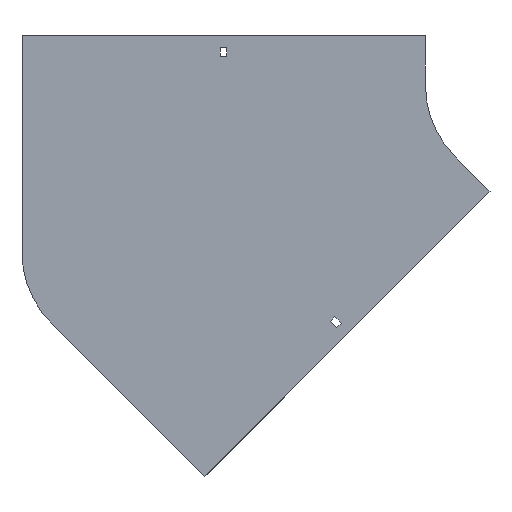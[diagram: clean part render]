
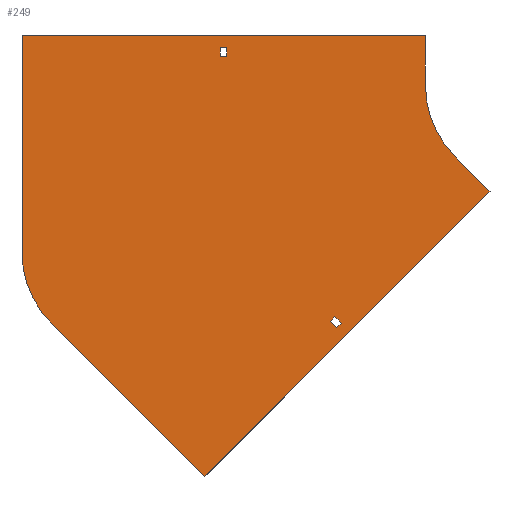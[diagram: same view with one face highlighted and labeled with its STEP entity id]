
A CAD part, front view. The second image highlights one B-rep face of the part: STEP entity #249.
In plain terms, the highlighted planar face has unit normal (0, -1, 0).
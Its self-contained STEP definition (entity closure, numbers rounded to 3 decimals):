
#23 = CARTESIAN_POINT ( 'NONE',  ( -504., 0., -167.342 ) ) ;
#47 = ORIENTED_EDGE ( 'NONE', *, *, #1435, .F. ) ;
#52 = CARTESIAN_POINT ( 'NONE',  ( -298.75, 0., 38. ) ) ;
#54 = ORIENTED_EDGE ( 'NONE', *, *, #1942, .F. ) ;
#55 = LINE ( 'NONE', #652, #490 ) ;
#66 = CARTESIAN_POINT ( 'NONE',  ( -190.742, 0., -231.754 ) ) ;
#97 = DIRECTION ( 'NONE',  ( 0., 1., 0. ) ) ;
#99 = CARTESIAN_POINT ( 'NONE',  ( -298.75, 0., 29. ) ) ;
#100 = CARTESIAN_POINT ( 'NONE',  ( -100., 0., 0. ) ) ;
#110 = DIRECTION ( 'NONE',  ( 0., -1., 0. ) ) ;
#145 = VERTEX_POINT ( 'NONE', #1742 ) ;
#153 = VECTOR ( 'NONE', #383, 1000. ) ;
#178 = CARTESIAN_POINT ( 'NONE',  ( -305.25, 0., 29. ) ) ;
#185 = VECTOR ( 'NONE', #1037, 1000. ) ;
#207 = VERTEX_POINT ( 'NONE', #1720 ) ;
#227 = DIRECTION ( 'NONE',  ( 1., 0., 0. ) ) ;
#230 = ORIENTED_EDGE ( 'NONE', *, *, #1071, .T. ) ;
#242 = EDGE_LOOP ( 'NONE', ( #1198, #1507, #666, #47, #1045, #264, #1923, #252 ) ) ;
#249 = ADVANCED_FACE ( 'NONE', ( #1609, #1631, #862 ), #1754, .T. ) ;
#252 = ORIENTED_EDGE ( 'NONE', *, *, #839, .F. ) ;
#261 = CARTESIAN_POINT ( 'NONE',  ( -404., 0., -167.342 ) ) ;
#264 = ORIENTED_EDGE ( 'NONE', *, *, #1595, .F. ) ;
#274 = EDGE_CURVE ( 'NONE', #681, #539, #413, .T. ) ;
#295 = CARTESIAN_POINT ( 'NONE',  ( -35.355, 0., -106.066 ) ) ;
#301 = AXIS2_PLACEMENT_3D ( 'NONE', #1174, #1646, #895 ) ;
#313 = VERTEX_POINT ( 'NONE', #100 ) ;
#337 = DIRECTION ( 'NONE',  ( 1., 0., 0. ) ) ;
#339 = LINE ( 'NONE', #99, #1289 ) ;
#347 = ORIENTED_EDGE ( 'NONE', *, *, #1590, .F. ) ;
#383 = DIRECTION ( 'NONE',  ( 0.707, 0., -0.707 ) ) ;
#413 = LINE ( 'NONE', #1309, #533 ) ;
#433 = ORIENTED_EDGE ( 'NONE', *, *, #1443, .T. ) ;
#447 = LINE ( 'NONE', #469, #1404 ) ;
#469 = CARTESIAN_POINT ( 'NONE',  ( -195.338, 0., -236.35 ) ) ;
#490 = VECTOR ( 'NONE', #227, 1000. ) ;
#497 = CARTESIAN_POINT ( 'NONE',  ( -321.026, 0., -391.737 ) ) ;
#507 = DIRECTION ( 'NONE',  ( -0.707, 0., -0.707 ) ) ;
#510 = LINE ( 'NONE', #983, #1857 ) ;
#511 = VERTEX_POINT ( 'NONE', #512 ) ;
#512 = CARTESIAN_POINT ( 'NONE',  ( -35.355, 0., -106.066 ) ) ;
#525 = LINE ( 'NONE', #1748, #153 ) ;
#533 = VECTOR ( 'NONE', #1179, 1000. ) ;
#539 = VERTEX_POINT ( 'NONE', #856 ) ;
#561 = EDGE_CURVE ( 'NONE', #697, #1759, #1150, .T. ) ;
#583 = CARTESIAN_POINT ( 'NONE',  ( -190.742, 0., -231.754 ) ) ;
#596 = VERTEX_POINT ( 'NONE', #23 ) ;
#598 = DIRECTION ( 'NONE',  ( 0., 0., -1. ) ) ;
#616 = ORIENTED_EDGE ( 'NONE', *, *, #1406, .F. ) ;
#629 = CARTESIAN_POINT ( 'NONE',  ( -504., 0., 50. ) ) ;
#652 = CARTESIAN_POINT ( 'NONE',  ( -305.25, 0., 38. ) ) ;
#659 = CARTESIAN_POINT ( 'NONE',  ( -195.338, 0., -236.35 ) ) ;
#666 = ORIENTED_EDGE ( 'NONE', *, *, #1858, .F. ) ;
#674 = DIRECTION ( 'NONE',  ( 0.707, 0., 0.707 ) ) ;
#681 = VERTEX_POINT ( 'NONE', #178 ) ;
#686 = VECTOR ( 'NONE', #598, 1000. ) ;
#694 = DIRECTION ( 'NONE',  ( 0., 0., -1. ) ) ;
#697 = VERTEX_POINT ( 'NONE', #980 ) ;
#703 = DIRECTION ( 'NONE',  ( 0., 0., -1. ) ) ;
#708 = CARTESIAN_POINT ( 'NONE',  ( -195.338, 0., -236.35 ) ) ;
#728 = VERTEX_POINT ( 'NONE', #52 ) ;
#731 = VERTEX_POINT ( 'NONE', #497 ) ;
#753 = AXIS2_PLACEMENT_3D ( 'NONE', #1460, #110, #703 ) ;
#779 = EDGE_CURVE ( 'NONE', #313, #207, #1407, .T. ) ;
#783 = LINE ( 'NONE', #295, #1132 ) ;
#789 = LINE ( 'NONE', #1192, #686 ) ;
#839 = EDGE_CURVE ( 'NONE', #1759, #313, #789, .T. ) ;
#856 = CARTESIAN_POINT ( 'NONE',  ( -305.25, 0., 38. ) ) ;
#862 = FACE_BOUND ( 'NONE', #1007, .T. ) ;
#895 = DIRECTION ( 'NONE',  ( 0., 0., -1. ) ) ;
#949 = DIRECTION ( 'NONE',  ( -1., 0., 0. ) ) ;
#980 = CARTESIAN_POINT ( 'NONE',  ( -504., 0., 50. ) ) ;
#983 = CARTESIAN_POINT ( 'NONE',  ( -321.026, 0., -391.737 ) ) ;
#1007 = EDGE_LOOP ( 'NONE', ( #347, #1492, #54, #616 ) ) ;
#1015 = EDGE_CURVE ( 'NONE', #511, #731, #783, .T. ) ;
#1027 = ORIENTED_EDGE ( 'NONE', *, *, #274, .T. ) ;
#1037 = DIRECTION ( 'NONE',  ( 0.707, 0., -0.707 ) ) ;
#1045 = ORIENTED_EDGE ( 'NONE', *, *, #1015, .F. ) ;
#1071 = EDGE_CURVE ( 'NONE', #145, #681, #1273, .T. ) ;
#1105 = DIRECTION ( 'NONE',  ( -0.707, 0., 0.707 ) ) ;
#1132 = VECTOR ( 'NONE', #1380, 1000. ) ;
#1150 = LINE ( 'NONE', #629, #1317 ) ;
#1161 = EDGE_LOOP ( 'NONE', ( #1027, #1315, #433, #230 ) ) ;
#1174 = CARTESIAN_POINT ( 'NONE',  ( 0., 0., 0. ) ) ;
#1179 = DIRECTION ( 'NONE',  ( 0., 0., 1. ) ) ;
#1183 = EDGE_CURVE ( 'NONE', #1564, #1788, #1321, .T. ) ;
#1188 = AXIS2_PLACEMENT_3D ( 'NONE', #261, #97, #1458 ) ;
#1192 = CARTESIAN_POINT ( 'NONE',  ( -100., 0., 50. ) ) ;
#1198 = ORIENTED_EDGE ( 'NONE', *, *, #561, .F. ) ;
#1272 = CARTESIAN_POINT ( 'NONE',  ( -184.378, 0., -238.118 ) ) ;
#1273 = LINE ( 'NONE', #1541, #1574 ) ;
#1289 = VECTOR ( 'NONE', #694, 1000. ) ;
#1309 = CARTESIAN_POINT ( 'NONE',  ( -305.25, 0., 29. ) ) ;
#1315 = ORIENTED_EDGE ( 'NONE', *, *, #1324, .T. ) ;
#1317 = VECTOR ( 'NONE', #337, 1000. ) ;
#1321 = LINE ( 'NONE', #708, #185 ) ;
#1324 = EDGE_CURVE ( 'NONE', #539, #728, #55, .T. ) ;
#1335 = VERTEX_POINT ( 'NONE', #1842 ) ;
#1380 = DIRECTION ( 'NONE',  ( -0.707, 0., -0.707 ) ) ;
#1404 = VECTOR ( 'NONE', #507, 1000. ) ;
#1406 = EDGE_CURVE ( 'NONE', #1576, #1494, #1532, .T. ) ;
#1407 = CIRCLE ( 'NONE', #301, 100. ) ;
#1425 = DIRECTION ( 'NONE',  ( -0.707, 0., 0.707 ) ) ;
#1435 = EDGE_CURVE ( 'NONE', #731, #1335, #510, .T. ) ;
#1443 = EDGE_CURVE ( 'NONE', #728, #145, #339, .T. ) ;
#1458 = DIRECTION ( 'NONE',  ( 0., 0., 1. ) ) ;
#1460 = CARTESIAN_POINT ( 'NONE',  ( 0., 0., 0. ) ) ;
#1468 = CIRCLE ( 'NONE', #1188, 100. ) ;
#1492 = ORIENTED_EDGE ( 'NONE', *, *, #1183, .F. ) ;
#1494 = VERTEX_POINT ( 'NONE', #583 ) ;
#1507 = ORIENTED_EDGE ( 'NONE', *, *, #1657, .F. ) ;
#1532 = LINE ( 'NONE', #66, #1643 ) ;
#1541 = CARTESIAN_POINT ( 'NONE',  ( -305.25, 0., 29. ) ) ;
#1548 = CARTESIAN_POINT ( 'NONE',  ( -504., 0., -167.342 ) ) ;
#1564 = VERTEX_POINT ( 'NONE', #659 ) ;
#1574 = VECTOR ( 'NONE', #949, 1000. ) ;
#1576 = VERTEX_POINT ( 'NONE', #1272 ) ;
#1586 = CARTESIAN_POINT ( 'NONE',  ( -188.974, 0., -242.714 ) ) ;
#1590 = EDGE_CURVE ( 'NONE', #1788, #1576, #1872, .T. ) ;
#1595 = EDGE_CURVE ( 'NONE', #207, #511, #525, .T. ) ;
#1609 = FACE_BOUND ( 'NONE', #1161, .T. ) ;
#1631 = FACE_OUTER_BOUND ( 'NONE', #242, .T. ) ;
#1643 = VECTOR ( 'NONE', #1105, 1000. ) ;
#1646 = DIRECTION ( 'NONE',  ( 0., -1., 0. ) ) ;
#1657 = EDGE_CURVE ( 'NONE', #596, #697, #1861, .T. ) ;
#1672 = VECTOR ( 'NONE', #1702, 1000. ) ;
#1702 = DIRECTION ( 'NONE',  ( 0., 0., 1. ) ) ;
#1720 = CARTESIAN_POINT ( 'NONE',  ( -70.711, 0., -70.711 ) ) ;
#1724 = CARTESIAN_POINT ( 'NONE',  ( -188.974, 0., -242.714 ) ) ;
#1742 = CARTESIAN_POINT ( 'NONE',  ( -298.75, 0., 29. ) ) ;
#1748 = CARTESIAN_POINT ( 'NONE',  ( -70.711, 0., -70.711 ) ) ;
#1754 = PLANE ( 'NONE',  #753 ) ;
#1759 = VERTEX_POINT ( 'NONE', #1796 ) ;
#1788 = VERTEX_POINT ( 'NONE', #1586 ) ;
#1796 = CARTESIAN_POINT ( 'NONE',  ( -100., 0., 50. ) ) ;
#1842 = CARTESIAN_POINT ( 'NONE',  ( -474.711, 0., -238.053 ) ) ;
#1857 = VECTOR ( 'NONE', #1425, 1000. ) ;
#1858 = EDGE_CURVE ( 'NONE', #1335, #596, #1468, .T. ) ;
#1861 = LINE ( 'NONE', #1548, #1672 ) ;
#1872 = LINE ( 'NONE', #1724, #1929 ) ;
#1923 = ORIENTED_EDGE ( 'NONE', *, *, #779, .F. ) ;
#1929 = VECTOR ( 'NONE', #674, 1000. ) ;
#1942 = EDGE_CURVE ( 'NONE', #1494, #1564, #447, .T. ) ;
